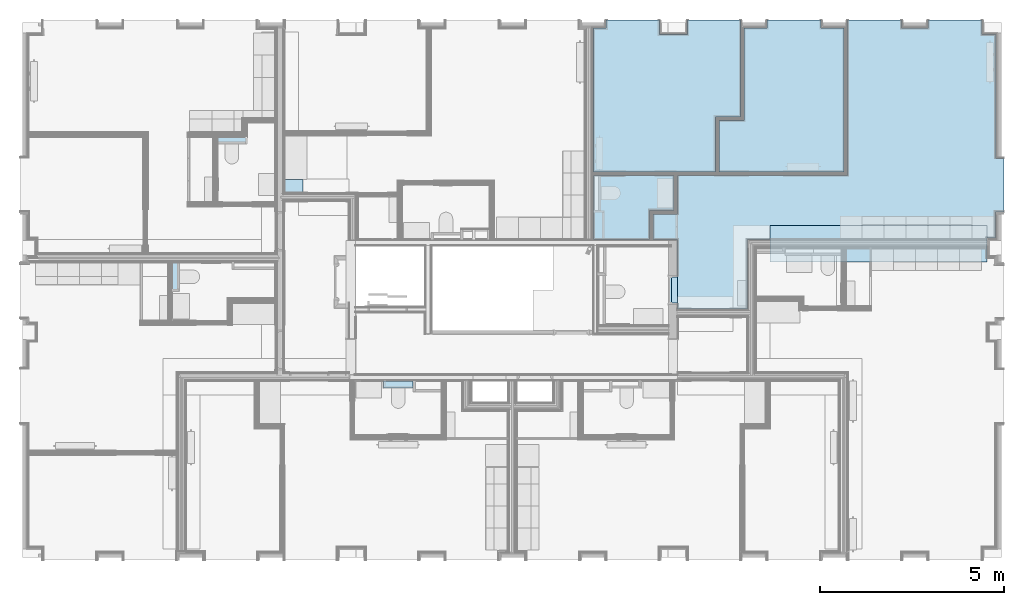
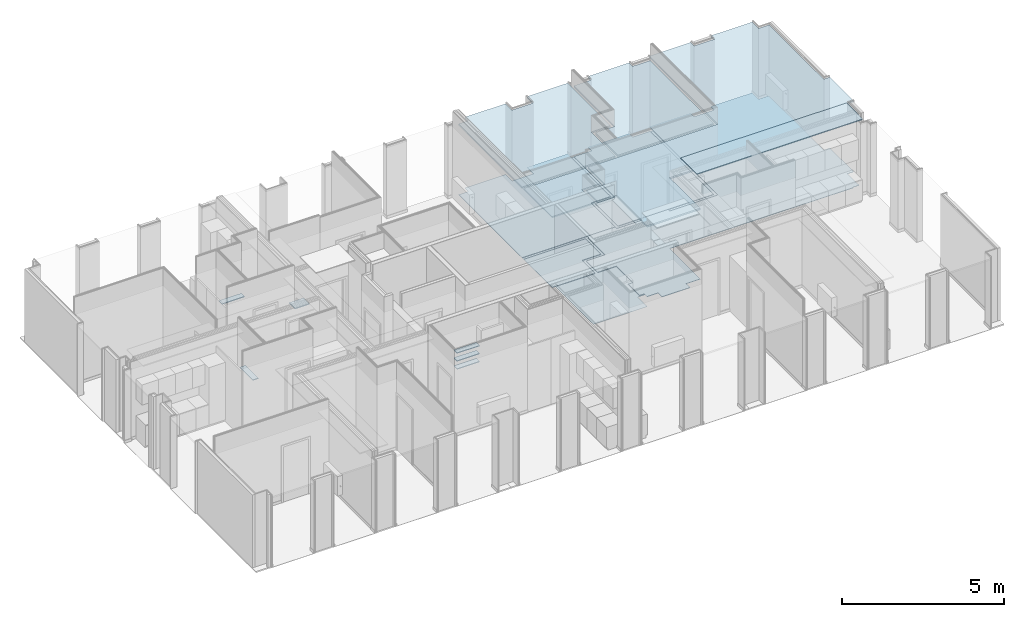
# One storey, part 48 of 65: 20 slabs.
"""IFC2X3 building model written with IfcOpenShell, lengths in metres."""

import ifcopenshell
import ifcopenshell.guid

model = None  # the IFC model being written
_history = None  # IfcOwnerHistory: only IFC2X3 demands one
_inside = {}  # id of a spatial element -> (the spatial element, [elements in it])
_under = {}  # id of a project, library or spatial element -> (it, [spatial elements below it])
_declared = {}  # id of a project -> (the project, [libraries it declares])
_typed = {}  # id of a type object -> (the type object, [elements of that type])
_made_of = {}  # id of a material, layer set ... -> (it, [elements and type objects made of it])


def new_model(schema):
    """Start an empty IFC model of exactly this schema.

    Asked for "IFC4X3", IfcOpenShell would pick the latest addendum, in which some entities
    have other attributes; the version numbers below select the first issue.
    IFC2X3 requires an IfcOwnerHistory on every rooted entity: one is made here for all.
    """
    global model, _history
    if schema == "IFC4X3":
        model = ifcopenshell.file(schema_version=(4, 3, 0, 0))
    else:
        model = ifcopenshell.file(schema=schema)
    _inside.clear()
    _under.clear()
    _declared.clear()
    _typed.clear()
    _made_of.clear()
    _history = None
    if model.schema == "IFC2X3":
        org = make("IfcOrganization", Name="unknown")
        user = make(
            "IfcPersonAndOrganization",
            ThePerson=make("IfcPerson", FamilyName="unknown"),
            TheOrganization=org,
        )
        app = make(
            "IfcApplication",
            ApplicationDeveloper=org,
            Version="unknown",
            ApplicationFullName="unknown",
            ApplicationIdentifier="unknown",
        )
        _history = make(
            "IfcOwnerHistory",
            OwningUser=user,
            OwningApplication=app,
            ChangeAction="ADDED",
            CreationDate=0,
        )
    return model


def make(cls, **values):
    """One entity of the class cls with the attributes given. An attribute that is None is left unset."""
    return model.create_entity(
        cls, **{name: value for name, value in values.items() if value is not None}
    )


def entity(cls, *values):
    """Any entity or typed value of the class cls, its attributes in the order of the schema. None: left unset."""
    e = model.create_entity(cls)
    for i, value in enumerate(values):
        if value is not None:
            e[i] = value
    return e


def rooted(cls, **values):
    """An entity with a GlobalId (a new one), such as an element, a storey or a relation."""
    return make(cls, GlobalId=ifcopenshell.guid.new(), OwnerHistory=_history, **values)


def si_unit(unit_type, name, prefix=None):
    """IfcSIUnit, for example si_unit("LENGTHUNIT", "METRE", prefix="MILLI")."""
    return make("IfcSIUnit", UnitType=unit_type, Prefix=prefix, Name=name)


def converted_unit(unit_type, name, factor, base, dimensions=None, offset=None):
    """IfcConversionBasedUnit, such as the inch: factor (a typed value) times the base unit."""
    return make(
        "IfcConversionBasedUnit"
        if offset is None
        else "IfcConversionBasedUnitWithOffset",
        ConversionOffset=offset,
        Dimensions=None
        if dimensions is None
        else entity("IfcDimensionalExponents", *dimensions),
        UnitType=unit_type,
        Name=name,
        ConversionFactor=make(
            "IfcMeasureWithUnit", ValueComponent=factor, UnitComponent=base
        ),
    )


def derived_unit(unit_type, elements):
    """IfcDerivedUnit: a product of units, each with its exponent."""
    return make(
        "IfcDerivedUnit",
        Elements=[
            make("IfcDerivedUnitElement", Unit=unit, Exponent=power)
            for unit, power in elements
        ],
        UnitType=unit_type,
    )


def money_unit(currency):
    """IfcMonetaryUnit."""
    return make("IfcMonetaryUnit", Currency=currency)


def assignment(units):
    """IfcUnitAssignment: the units of a project."""
    return None if units is None else make("IfcUnitAssignment", Units=units)


def point(xyz):
    """IfcCartesianPoint."""
    return None if xyz is None else make("IfcCartesianPoint", Coordinates=xyz)


def direction(xyz):
    """IfcDirection."""
    return None if xyz is None else make("IfcDirection", DirectionRatios=xyz)


def frame(location, z_axis=None, x_axis=None):
    """IfcAxis2Placement3D, a coordinate frame: its origin and axes. An axis left out is left unset."""
    return make(
        "IfcAxis2Placement3D",
        Location=point(location),
        Axis=direction(z_axis),
        RefDirection=direction(x_axis),
    )


def origin_with_axes():
    """The frame at (0, 0, 0) with the z axis (0, 0, 1) and the x axis (1, 0, 0) written out."""
    return frame((0.0, 0.0, 0.0), z_axis=(0.0, 0.0, 1.0), x_axis=(1.0, 0.0, 0.0))


def place(relative_to, where):
    """IfcLocalPlacement: puts the frame where relative to a parent placement (None: the world)."""
    return make(
        "IfcLocalPlacement", PlacementRelTo=relative_to, RelativePlacement=where
    )


def context(
    kind, dimensions, precision=None, world=None, true_north=None, identifier=None
):
    """IfcGeometricRepresentationContext, for example the 3D "Model" context."""
    return make(
        "IfcGeometricRepresentationContext",
        ContextIdentifier=identifier,
        ContextType=kind,
        CoordinateSpaceDimension=dimensions,
        Precision=precision,
        WorldCoordinateSystem=world,
        TrueNorth=true_north,
    )


def subcontext(parent, identifier, kind, view, scale=None):
    """IfcGeometricRepresentationSubContext, for example "Body" below "Model"."""
    return make(
        "IfcGeometricRepresentationSubContext",
        ContextIdentifier=identifier,
        ContextType=kind,
        ParentContext=parent,
        TargetScale=scale,
        TargetView=view,
    )


def project(units=None, contexts=None):
    """IfcProject with its units and contexts."""
    return rooted(
        "IfcProject",
        Name="project",
        RepresentationContexts=contexts,
        UnitsInContext=assignment(units),
    )


def spatial(cls, under=None, at=None, **own):
    """A site, building, storey or space (cls), placed at a placement, below another one or the project."""
    s = rooted(cls, ObjectPlacement=at, **own)
    if under is not None:
        _under.setdefault(under.id(), (under, []))[1].append(s)
    return s


def faces_of(points, faces, orient=None, outer=None):
    """IfcFace entities. A face is a list of loops; a loop is a list of indices into points, from 0.

    orient and outer hold one flag for each loop. By default every Orientation is true, the
    first loop of a face is its IfcFaceOuterBound and the others are IfcFaceBound.
    """
    made = []
    for i, loops in enumerate(faces):
        bounds = []
        for j, loop in enumerate(loops):
            is_outer = j == 0 if outer is None else outer[i][j]
            bounds.append(
                make(
                    "IfcFaceOuterBound" if is_outer else "IfcFaceBound",
                    Bound=make("IfcPolyLoop", Polygon=[points[k] for k in loop]),
                    Orientation=True if orient is None else orient[i][j],
                )
            )
        made.append(make("IfcFace", Bounds=bounds))
    return made


def faceted_brep(points, faces, orient=None, outer=None, voids=None):
    """IfcFacetedBrep: a solid bounded by flat faces; with voids (closed shells), ...WithVoids."""
    shared = [point(p) for p in points]
    hull = make("IfcClosedShell", CfsFaces=faces_of(shared, faces, orient, outer))
    if voids is None:
        return make("IfcFacetedBrep", Outer=hull)
    return make(
        "IfcFacetedBrepWithVoids",
        Outer=hull,
        Voids=[
            make(cls, CfsFaces=faces_of(shared, fs, o, b)) for cls, fs, o, b in voids
        ],
    )


def shape(context_of_items, identifier, shape_type, items):
    """IfcShapeRepresentation: the items that make up one representation, for example the "Body"."""
    return make(
        "IfcShapeRepresentation",
        ContextOfItems=context_of_items,
        RepresentationIdentifier=identifier,
        RepresentationType=shape_type,
        Items=items,
    )


def material(Name=None, Category=None):
    """IfcMaterial."""
    return make("IfcMaterial", Name=Name, Category=Category)


def made_of(thing, what):
    """Note that an element or type object is made of a material, layer set ...; save() writes the relation."""
    if what is not None:
        _made_of.setdefault(what.id(), (what, []))[1].append(thing)
    return thing


def type_object(cls, material=None, **own):
    """A type object (cls), such as IfcWallType, which elements share."""
    return made_of(rooted(cls, **own), material)


def element(
    cls,
    number,
    at=None,
    inside=None,
    cuts=None,
    type_object=None,
    material=None,
    context=None,
    identifier="Body",
    shape_type=None,
    held_by="IfcProductDefinitionShape",
    body=None,
    shapes=None,
    **own,
):
    """One element of the class cls, such as IfcWall. Its Tag is "e" and its number.

    at: its placement. inside: the storey or other place that contains it. cuts: it is an
    opening in that element (IfcRelVoidsElement). A single representation is given by context,
    identifier, shape_type and body (its items); several are given by shapes. held_by: the class
    of the entity that holds the representations. save() writes the other relations.
    """
    e = rooted(cls, Tag="e%d" % number, ObjectPlacement=at, **own)
    if body is not None:
        shapes = [shape(context, identifier, shape_type, body)]
    if shapes is not None:
        e.Representation = make(held_by, Representations=shapes)
    if inside is not None:
        _inside.setdefault(inside.id(), (inside, []))[1].append(e)
    if cuts is not None:
        rooted(
            "IfcRelVoidsElement", RelatingBuildingElement=cuts, RelatedOpeningElement=e
        )
    if type_object is not None:
        _typed.setdefault(type_object.id(), (type_object, []))[1].append(e)
    return made_of(e, material)


def aggregate(whole, parts):
    """IfcRelAggregates: a whole, such as a stair, and the parts it consists of."""
    return rooted("IfcRelAggregates", RelatingObject=whole, RelatedObjects=parts)


def save(model, path):
    """Write the relations noted so far, then the file.

    IfcRelAggregates (storeys below a building ...), IfcRelContainedInSpatialStructure (elements
    in a storey), IfcRelDefinesByType, IfcRelAssociatesMaterial and IfcRelDeclares: one each for
    every whole, place, type object, material and project.
    """
    for whole, parts in _under.values():
        aggregate(whole, parts)
    for where, things in _inside.values():
        rooted(
            "IfcRelContainedInSpatialStructure",
            RelatedElements=things,
            RelatingStructure=where,
        )
    for kind, things in _typed.values():
        rooted("IfcRelDefinesByType", RelatedObjects=things, RelatingType=kind)
    for what, things in _made_of.values():
        rooted("IfcRelAssociatesMaterial", RelatedObjects=things, RelatingMaterial=what)
    for by, libraries in _declared.values():
        rooted("IfcRelDeclares", RelatingContext=by, RelatedDefinitions=libraries)
    model.write(path)


model = new_model("IFC2X3")

# Units and contexts
model_context = context("Model", 3, precision=1e-05, world=origin_with_axes(), true_north=direction((0.0, 1.0)))
body_context = subcontext(model_context, "Body", "Model", "MODEL_VIEW", scale=1.0)
ifc_project = project(units=[si_unit("LENGTHUNIT", "METRE"), si_unit("AREAUNIT", "SQUARE_METRE"), si_unit("VOLUMEUNIT", "CUBIC_METRE"), si_unit("ABSORBEDDOSEUNIT", "GRAY"), si_unit("AMOUNTOFSUBSTANCEUNIT", "MOLE"), si_unit("DOSEEQUIVALENTUNIT", "SIEVERT"), si_unit("ELECTRICCAPACITANCEUNIT", "FARAD"), si_unit("ELECTRICCHARGEUNIT", "COULOMB"), si_unit("ELECTRICCONDUCTANCEUNIT", "SIEMENS"), si_unit("ELECTRICCURRENTUNIT", "AMPERE"), si_unit("ELECTRICRESISTANCEUNIT", "OHM"), si_unit("ELECTRICVOLTAGEUNIT", "VOLT"), si_unit("ENERGYUNIT", "JOULE"), si_unit("FORCEUNIT", "NEWTON"), si_unit("FREQUENCYUNIT", "HERTZ"), si_unit("ILLUMINANCEUNIT", "LUX"), si_unit("INDUCTANCEUNIT", "HENRY"), si_unit("LUMINOUSFLUXUNIT", "LUMEN"), si_unit("LUMINOUSINTENSITYUNIT", "CANDELA"), si_unit("MAGNETICFLUXDENSITYUNIT", "TESLA"), si_unit("MAGNETICFLUXUNIT", "WEBER"), si_unit("MASSUNIT", "GRAM"), converted_unit("PLANEANGLEUNIT", "degree", entity("IfcReal", 0.0174532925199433), si_unit("PLANEANGLEUNIT", "RADIAN"), dimensions=[0, 0, 0, 0, 0, 0, 0]), si_unit("POWERUNIT", "WATT"), si_unit("PRESSUREUNIT", "PASCAL"), si_unit("RADIOACTIVITYUNIT", "BECQUEREL"), si_unit("SOLIDANGLEUNIT", "STERADIAN"), si_unit("THERMODYNAMICTEMPERATUREUNIT", "KELVIN"), si_unit("TIMEUNIT", "SECOND"), derived_unit("ACCELERATIONUNIT", [(si_unit("LENGTHUNIT", "METRE"), 1), (si_unit("TIMEUNIT", "SECOND"), -2)]), derived_unit("ANGULARVELOCITYUNIT", [(converted_unit("PLANEANGLEUNIT", "degree", entity("IfcReal", 0.0174532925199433), si_unit("PLANEANGLEUNIT", "RADIAN"), dimensions=[0, 0, 0, 0, 0, 0, 0]), 1), (si_unit("TIMEUNIT", "SECOND"), -1)]), derived_unit("CURVATUREUNIT", [(converted_unit("PLANEANGLEUNIT", "degree", entity("IfcReal", 0.0174532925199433), si_unit("PLANEANGLEUNIT", "RADIAN"), dimensions=[0, 0, 0, 0, 0, 0, 0]), 1), (si_unit("LENGTHUNIT", "METRE"), -1)]), derived_unit("DYNAMICVISCOSITYUNIT", [(si_unit("PRESSUREUNIT", "PASCAL"), 1), (si_unit("TIMEUNIT", "SECOND"), 1)]), derived_unit("HEATFLUXDENSITYUNIT", [(si_unit("POWERUNIT", "WATT"), 1), (si_unit("LENGTHUNIT", "METRE"), -2)]), derived_unit("HEATINGVALUEUNIT", [(si_unit("ENERGYUNIT", "JOULE"), 1), (si_unit("MASSUNIT", "GRAM"), -1)]), derived_unit("INTEGERCOUNTRATEUNIT", [(si_unit("TIMEUNIT", "SECOND"), -1)]), derived_unit("IONCONCENTRATIONUNIT", [(si_unit("MASSUNIT", "GRAM"), 1), (si_unit("VOLUMEUNIT", "CUBIC_METRE"), -1)]), derived_unit("ISOTHERMALMOISTURECAPACITYUNIT", [(si_unit("VOLUMEUNIT", "CUBIC_METRE"), 1), (si_unit("MASSUNIT", "GRAM"), -1)]), derived_unit("KINEMATICVISCOSITYUNIT", [(si_unit("AREAUNIT", "SQUARE_METRE"), 1), (si_unit("TIMEUNIT", "SECOND"), -1)]), derived_unit("LINEARFORCEUNIT", [(si_unit("FORCEUNIT", "NEWTON"), 1), (si_unit("LENGTHUNIT", "METRE"), -1)]), derived_unit("LINEARMOMENTUNIT", [(si_unit("FORCEUNIT", "NEWTON"), 1), (si_unit("LENGTHUNIT", "METRE"), -1)]), derived_unit("LINEARSTIFFNESSUNIT", [(si_unit("FORCEUNIT", "NEWTON"), 1), (si_unit("LENGTHUNIT", "METRE"), -1)]), derived_unit("LINEARVELOCITYUNIT", [(si_unit("LENGTHUNIT", "METRE"), 1), (si_unit("TIMEUNIT", "SECOND"), -1)]), derived_unit("LUMINOUSINTENSITYDISTRIBUTIONUNIT", [(si_unit("LUMINOUSINTENSITYUNIT", "CANDELA"), 1), (si_unit("LUMINOUSFLUXUNIT", "LUMEN"), -1)]), derived_unit("MASSDENSITYUNIT", [(si_unit("MASSUNIT", "GRAM"), 1), (si_unit("VOLUMEUNIT", "CUBIC_METRE"), -1)]), derived_unit("MASSFLOWRATEUNIT", [(si_unit("MASSUNIT", "GRAM"), 1), (si_unit("TIMEUNIT", "SECOND"), -1)]), derived_unit("MASSPERLENGTHUNIT", [(si_unit("MASSUNIT", "GRAM"), 1), (si_unit("LENGTHUNIT", "METRE"), -1)]), derived_unit("MODULUSOFELASTICITYUNIT", [(si_unit("FORCEUNIT", "NEWTON"), 1), (si_unit("AREAUNIT", "SQUARE_METRE"), -1)]), derived_unit("MODULUSOFLINEARSUBGRADEREACTIONUNIT", [(si_unit("FORCEUNIT", "NEWTON"), 1), (si_unit("LENGTHUNIT", "METRE"), -2)]), derived_unit("MODULUSOFROTATIONALSUBGRADEREACTIONUNIT", [(si_unit("FORCEUNIT", "NEWTON"), 1), (si_unit("LENGTHUNIT", "METRE"), 1)]), derived_unit("MODULUSOFSUBGRADEREACTIONUNIT", [(si_unit("FORCEUNIT", "NEWTON"), 1), (si_unit("VOLUMEUNIT", "CUBIC_METRE"), -1)]), derived_unit("MOISTUREDIFFUSIVITYUNIT", [(si_unit("VOLUMEUNIT", "CUBIC_METRE"), 1), (si_unit("TIMEUNIT", "SECOND"), -1)]), derived_unit("MOLECULARWEIGHTUNIT", [(si_unit("MASSUNIT", "GRAM"), 1), (si_unit("AMOUNTOFSUBSTANCEUNIT", "MOLE"), -1)]), derived_unit("PLANARFORCEUNIT", [(si_unit("FORCEUNIT", "NEWTON"), 1), (si_unit("LENGTHUNIT", "METRE"), -2)]), derived_unit("ROTATIONALFREQUENCYUNIT", [(si_unit("TIMEUNIT", "SECOND"), -1)]), derived_unit("ROTATIONALMASSUNIT", [(si_unit("MASSUNIT", "GRAM"), 1), (si_unit("LENGTHUNIT", "METRE"), 2)]), derived_unit("ROTATIONALSTIFFNESSUNIT", [(si_unit("FORCEUNIT", "NEWTON"), 1), (si_unit("LENGTHUNIT", "METRE"), 1), (converted_unit("PLANEANGLEUNIT", "degree", entity("IfcReal", 0.0174532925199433), si_unit("PLANEANGLEUNIT", "RADIAN"), dimensions=[0, 0, 0, 0, 0, 0, 0]), -1)]), derived_unit("SECTIONAREAINTEGRALUNIT", [(si_unit("LENGTHUNIT", "METRE"), 5)]), derived_unit("SECTIONMODULUSUNIT", [(si_unit("LENGTHUNIT", "METRE"), 3)]), derived_unit("SHEARMODULUSUNIT", [(si_unit("FORCEUNIT", "NEWTON"), 1), (si_unit("AREAUNIT", "SQUARE_METRE"), -1)]), derived_unit("SOUNDPOWERUNIT", [(si_unit("ENERGYUNIT", "JOULE"), 1), (si_unit("TIMEUNIT", "SECOND"), -1)]), derived_unit("SPECIFICHEATCAPACITYUNIT", [(si_unit("FORCEUNIT", "NEWTON"), 1), (si_unit("MASSUNIT", "GRAM"), -1), (si_unit("THERMODYNAMICTEMPERATUREUNIT", "KELVIN"), -1)]), derived_unit("TEMPERATUREGRADIENTUNIT", [(si_unit("THERMODYNAMICTEMPERATUREUNIT", "KELVIN"), 1), (si_unit("LENGTHUNIT", "METRE"), -1)]), derived_unit("THERMALADMITTANCEUNIT", [(si_unit("POWERUNIT", "WATT"), 1), (si_unit("AREAUNIT", "SQUARE_METRE"), -1), (si_unit("THERMODYNAMICTEMPERATUREUNIT", "KELVIN"), -1)]), derived_unit("THERMALCONDUCTANCEUNIT", [(si_unit("POWERUNIT", "WATT"), 1), (si_unit("LENGTHUNIT", "METRE"), -1), (si_unit("THERMODYNAMICTEMPERATUREUNIT", "KELVIN"), -1)]), derived_unit("THERMALEXPANSIONCOEFFICIENTUNIT", [(si_unit("THERMODYNAMICTEMPERATUREUNIT", "KELVIN"), -1)]), derived_unit("THERMALRESISTANCEUNIT", [(si_unit("AREAUNIT", "SQUARE_METRE"), 1), (si_unit("POWERUNIT", "WATT"), -1)]), derived_unit("THERMALTRANSMITTANCEUNIT", [(si_unit("POWERUNIT", "WATT"), 1), (si_unit("AREAUNIT", "SQUARE_METRE"), -1), (si_unit("THERMODYNAMICTEMPERATUREUNIT", "KELVIN"), -1)]), derived_unit("TORQUEUNIT", [(si_unit("FORCEUNIT", "NEWTON"), 1), (si_unit("LENGTHUNIT", "METRE"), 1)]), derived_unit("VAPORPERMEABILITYUNIT", [(si_unit("MASSUNIT", "GRAM"), 1), (si_unit("TIMEUNIT", "SECOND"), -1)]), derived_unit("VOLUMETRICFLOWRATEUNIT", [(si_unit("VOLUMEUNIT", "CUBIC_METRE"), 1), (si_unit("TIMEUNIT", "SECOND"), -1)]), derived_unit("WARPINGCONSTANTUNIT", [(si_unit("LENGTHUNIT", "METRE"), 6)]), derived_unit("WARPINGMOMENTUNIT", [(si_unit("FORCEUNIT", "NEWTON"), 1), (si_unit("LENGTHUNIT", "METRE"), 2)]), money_unit("GBP")], contexts=[model_context])

# Site, building, storey
site_placement = place(None, origin_with_axes())
site = spatial("IfcSite", under=ifc_project, at=site_placement, Name="Site", CompositionType="ELEMENT")
building_placement = place(site_placement, origin_with_axes())
building = spatial("IfcBuilding", under=site, at=building_placement, Name="Building01", CompositionType="ELEMENT")
storey_placement = place(building_placement, frame((0.0, 0.0, 8.64), z_axis=(0.0, 0.0, 1.0), x_axis=(1.0, 0.0, 0.0)))
storey = spatial("IfcBuildingStorey", under=building, at=storey_placement, Name="2F", CompositionType="ELEMENT", Elevation=8.64)

# Slabs
ifc_material_1 = material(Name="A_BSUK_Ceramic_WallTiles")
slab_type_1 = type_object("IfcSlabType", Name="A-FloorsSlabs A_BSUK_Slabs", PredefinedType="FLOOR")
for number, where, z_axis, x_axis, name in (
    (1, (9.992536, 4.779998, 1.375), (0.0, 0.0, 1.0), (1.0, 0.0, 0.0), "A-FloorsSlabs A_BSUK_Slabs"),
    (2, (9.992536, 4.779998, 1.675), (0.0, 0.0, 1.0), (1.0, 0.0, 0.0), "A-FloorsSlabs A_BSUK_Slabs"),
    (3, (9.992536, 4.779998, 1.975), (0.0, 0.0, 1.0), (1.0, 0.0, 0.0), "A-FloorsSlabs A_BSUK_Slabs"),
):
    element("IfcSlab", number, at=place(storey_placement, frame(where, z_axis=z_axis, x_axis=x_axis)), inside=storey, type_object=slab_type_1, material=ifc_material_1, Name=name, ObjectType="A-FloorsSlabs A_BSUK_Slabs", context=body_context, shape_type="Brep", body=[
        faceted_brep([(0.0, 0.0, 0.0), (0.0, 0.0, 0.025), (0.0, 0.200002, 0.025), (0.0, 0.200002, 0.0), (0.8, 3e-06, 0.0), (0.8, 3e-06, 0.025), (0.799999, 0.200002, 0.0), (0.799999, 0.200002, 0.025)], [[[0, 1, 2, 3]], [[4, 5, 1, 0]], [[6, 7, 5, 4]], [[3, 2, 7, 6]], [[1, 5, 7, 2]], [[3, 6, 4, 0]]]),
    ])
slab_1_placement = place(storey_placement, frame((4.44073, 6.914372, 1.375), z_axis=(0.0, 0.0, 1.0), x_axis=(0.0, 1.0, 0.0)))
element("IfcSlab", 4, at=slab_1_placement, inside=storey, type_object=slab_type_1, material=ifc_material_1, Name="A-FloorsSlabs A_BSUK_Slabs", ObjectType="A-FloorsSlabs A_BSUK_Slabs", context=body_context, shape_type="Brep", body=[
    faceted_brep([(0.496298, 1e-06, 0.0), (0.496298, 1e-06, 0.025), (0.496298, 0.2, 0.025), (0.496298, 0.2, 0.0), (1.296298, 4e-06, 0.0), (1.296298, 4e-06, 0.025), (1.296298, 0.2, 0.0), (1.296298, 0.2, 0.025)], [[[0, 1, 2, 3]], [[4, 5, 1, 0]], [[6, 7, 5, 4]], [[3, 2, 7, 6]], [[1, 5, 7, 2]], [[3, 6, 4, 0]]]),
])
ifc_material_2 = material(Name="A_BSUK_ExpandedPolystyreneBoards")
placement = place(storey_placement, frame((0.0, 0.0, -8.64), z_axis=(0.0, 0.0, 1.0), x_axis=(1.0, 0.0, 0.0)))
element("IfcSlab", 5, at=placement, inside=storey, type_object=slab_type_1, material=ifc_material_2, Name="A-FloorsSlabs A_BSUK_Slabs", ObjectType="CompoundSlabLeaf", context=body_context, shape_type="Brep", body=[
    faceted_brep([(15.83, 8.82, 8.64), (15.83, 8.82, 8.643), (15.708132, 8.82, 8.643), (15.708132, 8.82, 8.64), (15.83, 8.65, 8.64), (15.83, 8.65, 8.643), (15.83, 6.475, 8.64), (15.83, 6.475, 8.643), (17.75, 6.475, 8.64), (17.75, 6.475, 8.643), (17.75, 7.058, 8.64), (17.75, 7.058, 8.643), (18.0, 7.058, 8.64), (18.0, 7.058, 8.643), (18.0, 6.93, 8.64), (18.0, 6.93, 8.643), (18.392, 6.93, 8.64), (18.392, 6.93, 8.643), (18.392, 6.69, 8.64), (18.392, 6.69, 8.643), (19.392, 6.69, 8.64), (19.392, 6.69, 8.643), (19.392, 6.93, 8.64), (19.392, 6.93, 8.643), (19.897661, 6.93, 8.64), (19.897661, 6.93, 8.643), (19.897661, 8.82, 8.64), (19.897661, 8.82, 8.643), (26.432, 8.82, 8.64), (26.432, 8.82, 8.643), (26.432, 8.848, 8.64), (26.432, 8.848, 8.643), (26.662, 8.848, 8.64), (26.662, 8.848, 8.643), (26.662, 9.56218, 8.64), (26.662, 9.56218, 8.643), (26.88, 9.56218, 8.64), (26.88, 9.56218, 8.643), (26.88, 11.03218, 8.64), (26.88, 11.03218, 8.643), (26.662, 11.03218, 8.64), (26.662, 11.03218, 8.643), (26.662, 14.402, 8.64), (26.662, 14.402, 8.643), (26.285, 14.402, 8.64), (26.285, 14.402, 8.643), (26.285, 14.8, 8.64), (26.285, 14.8, 8.643), (24.815, 14.8, 8.64), (24.815, 14.8, 8.643), (24.815, 14.582, 8.64), (24.815, 14.582, 8.643), (24.095, 14.582, 8.64), (24.095, 14.582, 8.643), (24.095, 14.8, 8.64), (24.095, 14.8, 8.643), (22.625, 14.8, 8.64), (22.625, 14.8, 8.643), (22.625, 14.582, 8.64), (22.625, 14.582, 8.643), (21.905, 14.582, 8.64), (21.905, 14.582, 8.643), (21.905, 14.8, 8.64), (21.905, 14.8, 8.643), (20.435, 14.8, 8.64), (20.435, 14.8, 8.643), (20.435, 14.582, 8.64), (20.435, 14.582, 8.643), (19.715, 14.582, 8.64), (19.715, 14.582, 8.643), (19.715, 14.8, 8.64), (19.715, 14.8, 8.643), (18.268, 14.8, 8.64), (18.268, 14.8, 8.643), (18.268, 14.402, 8.64), (18.268, 14.402, 8.643), (17.502, 14.402, 8.64), (17.502, 14.402, 8.643), (17.502, 14.8, 8.64), (17.502, 14.8, 8.643), (16.055, 14.8, 8.64), (16.055, 14.8, 8.643), (16.055, 14.582, 8.64), (16.055, 14.582, 8.643), (15.708132, 14.582, 8.64), (15.708132, 14.582, 8.643)], [[[0, 1, 2, 3]], [[4, 5, 1, 0]], [[6, 7, 5, 4]], [[8, 9, 7, 6]], [[10, 11, 9, 8]], [[12, 13, 11, 10]], [[14, 15, 13, 12]], [[16, 17, 15, 14]], [[18, 19, 17, 16]], [[20, 21, 19, 18]], [[22, 23, 21, 20]], [[24, 25, 23, 22]], [[26, 27, 25, 24]], [[28, 29, 27, 26]], [[30, 31, 29, 28]], [[32, 33, 31, 30]], [[34, 35, 33, 32]], [[36, 37, 35, 34]], [[38, 39, 37, 36]], [[40, 41, 39, 38]], [[42, 43, 41, 40]], [[44, 45, 43, 42]], [[46, 47, 45, 44]], [[48, 49, 47, 46]], [[50, 51, 49, 48]], [[52, 53, 51, 50]], [[54, 55, 53, 52]], [[56, 57, 55, 54]], [[58, 59, 57, 56]], [[60, 61, 59, 58]], [[62, 63, 61, 60]], [[64, 65, 63, 62]], [[66, 67, 65, 64]], [[68, 69, 67, 66]], [[70, 71, 69, 68]], [[72, 73, 71, 70]], [[74, 75, 73, 72]], [[76, 77, 75, 74]], [[78, 79, 77, 76]], [[80, 81, 79, 78]], [[82, 83, 81, 80]], [[84, 85, 83, 82]], [[3, 2, 85, 84]], [[1, 5, 7, 9, 11, 13, 15, 17, 19, 21, 23, 25, 27, 29, 31, 33, 35, 37, 39, 41, 43, 45, 47, 49, 51, 53, 55, 57, 59, 61, 63, 65, 67, 69, 71, 73, 75, 77, 79, 81, 83, 85, 2]], [[3, 84, 82, 80, 78, 76, 74, 72, 70, 68, 66, 64, 62, 60, 58, 56, 54, 52, 50, 48, 46, 44, 42, 40, 38, 36, 34, 32, 30, 28, 26, 24, 22, 20, 18, 16, 14, 12, 10, 8, 6, 4, 0]]]),
])
ifc_material_3 = material(Name="A_BSUK_Parquet_Floor")
element("IfcSlab", 6, at=placement, inside=storey, type_object=slab_type_1, material=ifc_material_3, Name="A-FloorsSlabs A_BSUK_Slabs", ObjectType="CompoundSlabLeaf", context=body_context, shape_type="Brep", body=[
    faceted_brep([(18.392, 6.69, 8.643), (18.392, 6.69, 8.655), (18.392, 6.93, 8.655), (18.392, 6.93, 8.643), (19.392, 6.69, 8.643), (19.392, 6.69, 8.655), (19.392, 6.93, 8.643), (19.392, 6.93, 8.655), (19.897661, 6.93, 8.643), (19.897661, 6.93, 8.655), (19.897661, 8.82, 8.643), (19.897661, 8.82, 8.655), (26.432, 8.82, 8.643), (26.432, 8.82, 8.655), (26.432, 8.848, 8.643), (26.432, 8.848, 8.655), (26.662, 8.848, 8.643), (26.662, 8.848, 8.655), (26.662, 9.56218, 8.643), (26.662, 9.56218, 8.655), (26.88, 9.56218, 8.643), (26.88, 9.56218, 8.655), (26.88, 11.03218, 8.643), (26.88, 11.03218, 8.655), (26.662, 11.03218, 8.643), (26.662, 11.03218, 8.655), (26.662, 14.402, 8.643), (26.662, 14.402, 8.655), (26.285, 14.402, 8.643), (26.285, 14.402, 8.655), (26.285, 14.8, 8.643), (26.285, 14.8, 8.655), (24.815, 14.8, 8.643), (24.815, 14.8, 8.655), (24.815, 14.582, 8.643), (24.815, 14.582, 8.655), (24.095, 14.582, 8.643), (24.095, 14.582, 8.655), (24.095, 14.8, 8.643), (24.095, 14.8, 8.655), (22.625, 14.8, 8.643), (22.625, 14.8, 8.655), (22.625, 10.57, 8.643), (22.625, 10.57, 8.655), (20.902284, 10.57, 8.643), (20.902284, 10.57, 8.655), (20.902284, 10.665, 8.643), (20.902284, 10.665, 8.655), (19.918284, 10.665, 8.643), (19.918284, 10.665, 8.655), (19.918284, 10.57, 8.643), (19.918284, 10.57, 8.655), (19.017398, 10.57, 8.643), (19.017398, 10.57, 8.655), (19.017398, 10.665, 8.643), (19.017398, 10.665, 8.655), (18.033398, 10.665, 8.643), (18.033398, 10.665, 8.655), (18.033398, 10.57, 8.643), (18.033398, 10.57, 8.655), (18.0, 10.57, 8.643), (18.0, 10.57, 8.655), (18.0, 9.967396, 8.643), (18.0, 9.967396, 8.655), (18.0, 9.525, 8.643), (18.0, 9.525, 8.655), (17.333132, 9.525, 8.643), (17.333132, 9.525, 8.655), (17.333132, 8.82, 8.643), (17.333132, 8.82, 8.655), (17.905, 8.82, 8.643), (17.905, 8.82, 8.655), (18.0, 8.82, 8.643), (18.0, 8.82, 8.655), (18.0, 7.8, 8.643), (18.0, 7.8, 8.655), (17.83, 7.8, 8.643), (17.83, 7.8, 8.655), (17.83, 7.1, 8.643), (17.83, 7.1, 8.655), (18.0, 7.1, 8.643), (18.0, 7.1, 8.655), (18.0, 6.93, 8.643), (18.0, 6.93, 8.655)], [[[0, 1, 2, 3]], [[4, 5, 1, 0]], [[6, 7, 5, 4]], [[8, 9, 7, 6]], [[10, 11, 9, 8]], [[12, 13, 11, 10]], [[14, 15, 13, 12]], [[16, 17, 15, 14]], [[18, 19, 17, 16]], [[20, 21, 19, 18]], [[22, 23, 21, 20]], [[24, 25, 23, 22]], [[26, 27, 25, 24]], [[28, 29, 27, 26]], [[30, 31, 29, 28]], [[32, 33, 31, 30]], [[34, 35, 33, 32]], [[36, 37, 35, 34]], [[38, 39, 37, 36]], [[40, 41, 39, 38]], [[42, 43, 41, 40]], [[44, 45, 43, 42]], [[46, 47, 45, 44]], [[48, 49, 47, 46]], [[50, 51, 49, 48]], [[52, 53, 51, 50]], [[54, 55, 53, 52]], [[56, 57, 55, 54]], [[58, 59, 57, 56]], [[60, 61, 59, 58]], [[62, 63, 61, 60]], [[64, 65, 63, 62]], [[66, 67, 65, 64]], [[68, 69, 67, 66]], [[70, 71, 69, 68]], [[72, 73, 71, 70]], [[74, 75, 73, 72]], [[76, 77, 75, 74]], [[78, 79, 77, 76]], [[80, 81, 79, 78]], [[82, 83, 81, 80]], [[3, 2, 83, 82]], [[1, 5, 7, 9, 11, 13, 15, 17, 19, 21, 23, 25, 27, 29, 31, 33, 35, 37, 39, 41, 43, 45, 47, 49, 51, 53, 55, 57, 59, 61, 63, 65, 67, 69, 71, 73, 75, 77, 79, 81, 83, 2]], [[3, 82, 80, 78, 76, 74, 72, 70, 68, 66, 64, 62, 60, 58, 56, 54, 52, 50, 48, 46, 44, 42, 40, 38, 36, 34, 32, 30, 28, 26, 24, 22, 20, 18, 16, 14, 12, 10, 8, 6, 4, 0]]]),
])
ifc_material_4 = material(Name="A_BSUK_Carpet-Pile")
element("IfcSlab", 7, at=placement, inside=storey, type_object=slab_type_1, material=ifc_material_4, Name="A-FloorsSlabs A_BSUK_Slabs", ObjectType="CompoundSlabLeaf", context=body_context, shape_type="Brep", body=[
    faceted_brep([(15.708132, 10.665, 8.643), (15.708132, 10.665, 8.655), (15.708132, 14.582, 8.655), (15.708132, 14.582, 8.643), (19.025284, 10.665, 8.643), (19.025284, 10.665, 8.655), (19.025284, 12.159378, 8.643), (19.025284, 12.159378, 8.655), (19.715, 12.159378, 8.643), (19.715, 12.159378, 8.655), (19.715, 14.8, 8.643), (19.715, 14.8, 8.655), (18.268, 14.8, 8.643), (18.268, 14.8, 8.655), (18.268, 14.402, 8.643), (18.268, 14.402, 8.655), (17.502, 14.402, 8.643), (17.502, 14.402, 8.655), (17.502, 14.8, 8.643), (17.502, 14.8, 8.655), (16.055, 14.8, 8.643), (16.055, 14.8, 8.655), (16.055, 14.582, 8.643), (16.055, 14.582, 8.655)], [[[0, 1, 2, 3]], [[4, 5, 1, 0]], [[6, 7, 5, 4]], [[8, 9, 7, 6]], [[10, 11, 9, 8]], [[12, 13, 11, 10]], [[14, 15, 13, 12]], [[16, 17, 15, 14]], [[18, 19, 17, 16]], [[20, 21, 19, 18]], [[22, 23, 21, 20]], [[3, 2, 23, 22]], [[1, 5, 7, 9, 11, 13, 15, 17, 19, 21, 23, 2]], [[3, 22, 20, 18, 16, 14, 12, 10, 8, 6, 4, 0]]]),
])
element("IfcSlab", 8, at=placement, inside=storey, type_object=slab_type_1, material=ifc_material_4, Name="A-FloorsSlabs A_BSUK_Slabs", ObjectType="CompoundSlabLeaf", context=body_context, shape_type="Brep", body=[
    faceted_brep([(19.81, 12.064378, 8.643), (19.81, 12.064378, 8.655), (19.81, 14.582, 8.655), (19.81, 14.582, 8.643), (19.120284, 12.064378, 8.643), (19.120284, 12.064378, 8.655), (19.120284, 10.665, 8.643), (19.120284, 10.665, 8.655), (22.53, 10.665, 8.643), (22.53, 10.665, 8.655), (22.53, 14.582, 8.643), (22.53, 14.582, 8.655), (21.905, 14.582, 8.643), (21.905, 14.582, 8.655), (21.905, 14.8, 8.643), (21.905, 14.8, 8.655), (20.435, 14.8, 8.643), (20.435, 14.8, 8.655), (20.435, 14.582, 8.643), (20.435, 14.582, 8.655)], [[[0, 1, 2, 3]], [[4, 5, 1, 0]], [[6, 7, 5, 4]], [[8, 9, 7, 6]], [[10, 11, 9, 8]], [[12, 13, 11, 10]], [[14, 15, 13, 12]], [[16, 17, 15, 14]], [[18, 19, 17, 16]], [[3, 2, 19, 18]], [[1, 5, 7, 9, 11, 13, 15, 17, 19, 2]], [[3, 18, 16, 14, 12, 10, 8, 6, 4, 0]]]),
])
ifc_material_5 = material(Name="A_BSUK_CeilingSoffitFinishes_Suspended")
element("IfcSlab", 9, at=placement, inside=storey, type_object=slab_type_1, material=ifc_material_5, Name="A-FloorsSlabs A_BSUK_Slabs", ObjectType="CompoundSlabLeaf", context=body_context, shape_type="Brep", body=[
    faceted_brep([(18.395, 6.93, 11.255), (18.395, 6.93, 11.27), (18.0, 6.93, 11.27), (18.0, 6.93, 11.255), (19.395, 6.93, 11.255), (19.395, 6.93, 11.27), (19.897661, 6.93, 11.255), (19.897661, 6.93, 11.27), (19.897661, 8.82, 11.255), (19.897661, 8.82, 11.27), (26.417, 8.82, 11.255), (26.417, 8.82, 11.27), (26.417, 8.863, 11.255), (26.417, 8.863, 11.27), (26.647, 8.863, 11.255), (26.647, 8.863, 11.27), (26.647, 9.57718, 11.255), (26.647, 9.57718, 11.27), (26.88, 9.57718, 11.255), (26.88, 9.57718, 11.27), (26.88, 11.03218, 11.255), (26.88, 11.03218, 11.27), (26.662, 11.03218, 11.255), (26.662, 11.03218, 11.27), (26.662, 14.402, 11.255), (26.662, 14.402, 11.27), (26.285, 14.402, 11.255), (26.285, 14.402, 11.27), (26.285, 14.8, 11.255), (26.285, 14.8, 11.27), (24.815, 14.8, 11.255), (24.815, 14.8, 11.27), (24.815, 14.582, 11.255), (24.815, 14.582, 11.27), (24.095, 14.582, 11.255), (24.095, 14.582, 11.27), (24.095, 14.8, 11.255), (24.095, 14.8, 11.27), (22.625, 14.8, 11.255), (22.625, 14.8, 11.27), (22.625, 10.57, 11.255), (22.625, 10.57, 11.27), (19.891284, 10.57, 11.255), (19.891284, 10.57, 11.27), (19.044398, 10.57, 11.255), (19.044398, 10.57, 11.27), (18.0, 10.57, 11.255), (18.0, 10.57, 11.27), (18.0, 9.525, 11.255), (18.0, 9.525, 11.27), (17.333132, 9.525, 11.255), (17.333132, 9.525, 11.27), (17.333132, 8.82, 11.255), (17.333132, 8.82, 11.27), (18.0, 8.82, 11.255), (18.0, 8.82, 11.27), (18.0, 7.82088, 11.255), (18.0, 7.82088, 11.27), (18.0, 7.02888, 11.255), (18.0, 7.02888, 11.27)], [[[0, 1, 2, 3]], [[4, 5, 1, 0]], [[6, 7, 5, 4]], [[8, 9, 7, 6]], [[10, 11, 9, 8]], [[12, 13, 11, 10]], [[14, 15, 13, 12]], [[16, 17, 15, 14]], [[18, 19, 17, 16]], [[20, 21, 19, 18]], [[22, 23, 21, 20]], [[24, 25, 23, 22]], [[26, 27, 25, 24]], [[28, 29, 27, 26]], [[30, 31, 29, 28]], [[32, 33, 31, 30]], [[34, 35, 33, 32]], [[36, 37, 35, 34]], [[38, 39, 37, 36]], [[40, 41, 39, 38]], [[42, 43, 41, 40]], [[44, 45, 43, 42]], [[46, 47, 45, 44]], [[48, 49, 47, 46]], [[50, 51, 49, 48]], [[52, 53, 51, 50]], [[54, 55, 53, 52]], [[56, 57, 55, 54]], [[58, 59, 57, 56]], [[3, 2, 59, 58]], [[1, 5, 7, 9, 11, 13, 15, 17, 19, 21, 23, 25, 27, 29, 31, 33, 35, 37, 39, 41, 43, 45, 47, 49, 51, 53, 55, 57, 59, 2]], [[3, 58, 56, 54, 52, 50, 48, 46, 44, 42, 40, 38, 36, 34, 32, 30, 28, 26, 24, 22, 20, 18, 16, 14, 12, 10, 8, 6, 4, 0]]]),
])
element("IfcSlab", 10, at=placement, inside=storey, type_object=slab_type_1, material=ifc_material_5, Name="A-FloorsSlabs A_BSUK_Slabs", ObjectType="CompoundSlabLeaf", context=body_context, shape_type="Brep", body=[
    faceted_brep([(15.708132, 10.665, 11.255), (15.708132, 10.665, 11.27), (15.708132, 14.567, 11.27), (15.708132, 14.567, 11.255), (19.025284, 10.665, 11.255), (19.025284, 10.665, 11.27), (19.025284, 12.159378, 11.255), (19.025284, 12.159378, 11.27), (19.715, 12.159378, 11.255), (19.715, 12.159378, 11.27), (19.715, 14.8, 11.255), (19.715, 14.8, 11.27), (18.268, 14.8, 11.255), (18.268, 14.8, 11.27), (18.268, 14.402, 11.255), (18.268, 14.402, 11.27), (17.502, 14.402, 11.255), (17.502, 14.402, 11.27), (17.502, 14.8, 11.255), (17.502, 14.8, 11.27), (16.070124, 14.8, 11.255), (16.070124, 14.8, 11.27), (16.070124, 14.567, 11.255), (16.070124, 14.567, 11.27)], [[[0, 1, 2, 3]], [[4, 5, 1, 0]], [[6, 7, 5, 4]], [[8, 9, 7, 6]], [[10, 11, 9, 8]], [[12, 13, 11, 10]], [[14, 15, 13, 12]], [[16, 17, 15, 14]], [[18, 19, 17, 16]], [[20, 21, 19, 18]], [[22, 23, 21, 20]], [[3, 2, 23, 22]], [[1, 5, 7, 9, 11, 13, 15, 17, 19, 21, 23, 2]], [[3, 22, 20, 18, 16, 14, 12, 10, 8, 6, 4, 0]]]),
])
element("IfcSlab", 11, at=placement, inside=storey, type_object=slab_type_1, material=ifc_material_5, Name="A-FloorsSlabs A_BSUK_Slabs", ObjectType="CompoundSlabLeaf", context=body_context, shape_type="Brep", body=[
    faceted_brep([(19.81, 12.064378, 11.255), (19.81, 12.064378, 11.27), (19.81, 14.582, 11.27), (19.81, 14.582, 11.255), (19.120284, 12.064378, 11.255), (19.120284, 12.064378, 11.27), (19.120284, 10.665, 11.255), (19.120284, 10.665, 11.27), (22.53, 10.665, 11.255), (22.53, 10.665, 11.27), (22.53, 14.582, 11.255), (22.53, 14.582, 11.27), (21.905, 14.582, 11.255), (21.905, 14.582, 11.27), (21.905, 14.8, 11.255), (21.905, 14.8, 11.27), (20.435, 14.8, 11.255), (20.435, 14.8, 11.27), (20.435, 14.582, 11.255), (20.435, 14.582, 11.27)], [[[0, 1, 2, 3]], [[4, 5, 1, 0]], [[6, 7, 5, 4]], [[8, 9, 7, 6]], [[10, 11, 9, 8]], [[12, 13, 11, 10]], [[14, 15, 13, 12]], [[16, 17, 15, 14]], [[18, 19, 17, 16]], [[3, 2, 19, 18]], [[1, 5, 7, 9, 11, 13, 15, 17, 19, 2]], [[3, 18, 16, 14, 12, 10, 8, 6, 4, 0]]]),
])
ifc_material_6 = material(Name="A_BSUK_Ceramic_FloorTiles")
element("IfcSlab", 12, at=placement, inside=storey, type_object=slab_type_1, material=ifc_material_6, Name="A-FloorsSlabs A_BSUK_Slabs", ObjectType="CompoundSlabLeaf", context=body_context, shape_type="Brep", body=[
    faceted_brep([(15.708132, 8.82, 8.643), (15.708132, 8.82, 8.655), (15.708132, 10.57, 8.655), (15.708132, 10.57, 8.643), (17.238132, 8.82, 8.643), (17.238132, 8.82, 8.655), (17.238132, 9.62, 8.643), (17.238132, 9.62, 8.655), (17.905, 9.62, 8.643), (17.905, 9.62, 8.655), (17.905, 10.57, 8.643), (17.905, 10.57, 8.655)], [[[0, 1, 2, 3]], [[4, 5, 1, 0]], [[6, 7, 5, 4]], [[8, 9, 7, 6]], [[10, 11, 9, 8]], [[3, 2, 11, 10]], [[1, 5, 7, 9, 11, 2]], [[3, 10, 8, 6, 4, 0]]]),
])
element("IfcSlab", 13, at=placement, inside=storey, type_object=slab_type_1, material=ifc_material_1, Name="A-FloorsSlabs A_BSUK_Slabs", ObjectType="CompoundSlabLeaf", context=body_context, shape_type="Brep", body=[
    faceted_brep([(5.464669, 11.43067, 10.015), (5.464669, 11.43067, 10.04), (5.464669, 11.63067, 10.04), (5.464669, 11.63067, 10.015), (6.264669, 11.430672, 10.015), (6.264669, 11.430672, 10.04), (6.264669, 11.63067, 10.015), (6.264669, 11.63067, 10.04)], [[[0, 1, 2, 3]], [[4, 5, 1, 0]], [[6, 7, 5, 4]], [[3, 2, 7, 6]], [[1, 5, 7, 2]], [[3, 6, 4, 0]]]),
])
element("IfcSlab", 14, at=placement, inside=storey, type_object=slab_type_1, material=ifc_material_1, Name="A-FloorsSlabs A_BSUK_Slabs", ObjectType="CompoundSlabLeaf", context=body_context, shape_type="Brep", body=[
    faceted_brep([(7.804669, 10.453124, 10.015), (7.804669, 10.453124, 10.04), (7.804669, 10.087704, 10.04), (7.804669, 10.087704, 10.015), (7.289669, 10.453124, 10.015), (7.289669, 10.453124, 10.04), (7.289669, 10.087704, 10.015), (7.289669, 10.087704, 10.04)], [[[0, 1, 2, 3]], [[4, 5, 1, 0]], [[6, 7, 5, 4]], [[3, 2, 7, 6]], [[1, 5, 7, 2]], [[3, 6, 4, 0]]]),
])
element("IfcSlab", 15, at=placement, inside=storey, type_object=slab_type_1, material=ifc_material_5, Name="A-FloorsSlabs A_BSUK_Slabs", ObjectType="CompoundSlabLeaf", context=body_context, shape_type="Brep", body=[
    faceted_brep([(20.510161, 8.2075, 11.605), (20.510161, 8.2075, 11.62), (20.510161, 9.2075, 11.62), (20.510161, 9.2075, 11.605), (26.417, 8.2075, 11.605), (26.417, 8.2075, 11.62), (26.417, 9.2075, 11.605), (26.417, 9.2075, 11.62)], [[[0, 1, 2, 3]], [[4, 5, 1, 0]], [[6, 7, 5, 4]], [[3, 2, 7, 6]], [[1, 5, 7, 2]], [[3, 6, 4, 0]]]),
])
element("IfcSlab", 16, at=placement, inside=storey, type_object=slab_type_1, material=ifc_material_5, Name="A-FloorsSlabs A_BSUK_Slabs", ObjectType="CompoundSlabLeaf", context=body_context, shape_type="Brep", body=[
    faceted_brep([(20.510161, 8.2075, 11.59), (20.510161, 8.2075, 11.605), (20.510161, 9.2075, 11.605), (20.510161, 9.2075, 11.59), (26.417, 8.2075, 11.59), (26.417, 8.2075, 11.605), (26.417, 9.2075, 11.59), (26.417, 9.2075, 11.605)], [[[0, 1, 2, 3]], [[4, 5, 1, 0]], [[6, 7, 5, 4]], [[3, 2, 7, 6]], [[1, 5, 7, 2]], [[3, 6, 4, 0]]]),
])
slab_type_2 = type_object("IfcSlabType", Name="A-FloorsSlabs A_BSUK_ExpandedPolystyreneBoards", PredefinedType="FLOOR")
element("IfcSlab", 17, at=placement, inside=storey, type_object=slab_type_2, material=ifc_material_2, Name="A-FloorsSlabs A_BSUK_ExpandedPolystyreneBoards", ObjectType="CompoundSlabLeaf", context=body_context, shape_type="Brep", body=[
    faceted_brep([(18.395, 6.93, 11.27), (18.395, 6.93, 11.32), (18.0, 6.93, 11.32), (18.0, 6.93, 11.27), (19.395, 6.93, 11.27), (19.395, 6.93, 11.32), (19.897661, 6.93, 11.27), (19.897661, 6.93, 11.32), (19.897661, 8.82, 11.27), (19.897661, 8.82, 11.32), (26.432, 8.82, 11.27), (26.432, 8.82, 11.32), (26.432, 8.848, 11.27), (26.432, 8.848, 11.32), (26.662, 8.848, 11.27), (26.662, 8.848, 11.32), (26.662, 9.56218, 11.27), (26.662, 9.56218, 11.32), (26.88, 9.56218, 11.27), (26.88, 9.56218, 11.32), (26.88, 11.03218, 11.27), (26.88, 11.03218, 11.32), (26.662, 11.03218, 11.27), (26.662, 11.03218, 11.32), (26.662, 14.402, 11.27), (26.662, 14.402, 11.32), (26.285, 14.402, 11.27), (26.285, 14.402, 11.32), (26.285, 14.8, 11.27), (26.285, 14.8, 11.32), (24.815, 14.8, 11.27), (24.815, 14.8, 11.32), (24.815, 14.582, 11.27), (24.815, 14.582, 11.32), (24.095, 14.582, 11.27), (24.095, 14.582, 11.32), (24.095, 14.8, 11.27), (24.095, 14.8, 11.32), (22.625, 14.8, 11.27), (22.625, 14.8, 11.32), (22.625, 10.57, 11.27), (22.625, 10.57, 11.32), (19.891284, 10.57, 11.27), (19.891284, 10.57, 11.32), (19.044398, 10.57, 11.27), (19.044398, 10.57, 11.32), (18.0, 10.57, 11.27), (18.0, 10.57, 11.32), (18.0, 9.525, 11.27), (18.0, 9.525, 11.32), (17.333132, 9.525, 11.27), (17.333132, 9.525, 11.32), (17.333132, 8.82, 11.27), (17.333132, 8.82, 11.32), (18.0, 8.82, 11.27), (18.0, 8.82, 11.32), (18.0, 7.82088, 11.27), (18.0, 7.82088, 11.32), (18.0, 7.02888, 11.27), (18.0, 7.02888, 11.32)], [[[0, 1, 2, 3]], [[4, 5, 1, 0]], [[6, 7, 5, 4]], [[8, 9, 7, 6]], [[10, 11, 9, 8]], [[12, 13, 11, 10]], [[14, 15, 13, 12]], [[16, 17, 15, 14]], [[18, 19, 17, 16]], [[20, 21, 19, 18]], [[22, 23, 21, 20]], [[24, 25, 23, 22]], [[26, 27, 25, 24]], [[28, 29, 27, 26]], [[30, 31, 29, 28]], [[32, 33, 31, 30]], [[34, 35, 33, 32]], [[36, 37, 35, 34]], [[38, 39, 37, 36]], [[40, 41, 39, 38]], [[42, 43, 41, 40]], [[44, 45, 43, 42]], [[46, 47, 45, 44]], [[48, 49, 47, 46]], [[50, 51, 49, 48]], [[52, 53, 51, 50]], [[54, 55, 53, 52]], [[56, 57, 55, 54]], [[58, 59, 57, 56]], [[3, 2, 59, 58]], [[1, 5, 7, 9, 11, 13, 15, 17, 19, 21, 23, 25, 27, 29, 31, 33, 35, 37, 39, 41, 43, 45, 47, 49, 51, 53, 55, 57, 59, 2]], [[3, 58, 56, 54, 52, 50, 48, 46, 44, 42, 40, 38, 36, 34, 32, 30, 28, 26, 24, 22, 20, 18, 16, 14, 12, 10, 8, 6, 4, 0]]]),
])
element("IfcSlab", 18, at=placement, inside=storey, type_object=slab_type_2, material=ifc_material_2, Name="A-FloorsSlabs A_BSUK_ExpandedPolystyreneBoards", ObjectType="CompoundSlabLeaf", context=body_context, shape_type="Brep", body=[
    faceted_brep([(15.708132, 10.665, 11.27), (15.708132, 10.665, 11.32), (15.708132, 14.582, 11.32), (15.708132, 14.582, 11.27), (19.025284, 10.665, 11.27), (19.025284, 10.665, 11.32), (19.025284, 12.159378, 11.27), (19.025284, 12.159378, 11.32), (19.715, 12.159378, 11.27), (19.715, 12.159378, 11.32), (19.715, 14.8, 11.27), (19.715, 14.8, 11.32), (18.268, 14.8, 11.27), (18.268, 14.8, 11.32), (18.268, 14.402, 11.27), (18.268, 14.402, 11.32), (17.502, 14.402, 11.27), (17.502, 14.402, 11.32), (17.502, 14.8, 11.27), (17.502, 14.8, 11.32), (16.055, 14.8, 11.27), (16.055, 14.8, 11.32), (16.055, 14.582, 11.27), (16.055, 14.582, 11.32)], [[[0, 1, 2, 3]], [[4, 5, 1, 0]], [[6, 7, 5, 4]], [[8, 9, 7, 6]], [[10, 11, 9, 8]], [[12, 13, 11, 10]], [[14, 15, 13, 12]], [[16, 17, 15, 14]], [[18, 19, 17, 16]], [[20, 21, 19, 18]], [[22, 23, 21, 20]], [[3, 2, 23, 22]], [[1, 5, 7, 9, 11, 13, 15, 17, 19, 21, 23, 2]], [[3, 22, 20, 18, 16, 14, 12, 10, 8, 6, 4, 0]]]),
])
element("IfcSlab", 19, at=placement, inside=storey, type_object=slab_type_2, material=ifc_material_2, Name="A-FloorsSlabs A_BSUK_ExpandedPolystyreneBoards", ObjectType="CompoundSlabLeaf", context=body_context, shape_type="Brep", body=[
    faceted_brep([(19.81, 12.064378, 11.27), (19.81, 12.064378, 11.32), (19.81, 14.582, 11.32), (19.81, 14.582, 11.27), (19.120284, 12.064378, 11.27), (19.120284, 12.064378, 11.32), (19.120284, 10.665, 11.27), (19.120284, 10.665, 11.32), (22.53, 10.665, 11.27), (22.53, 10.665, 11.32), (22.53, 14.582, 11.27), (22.53, 14.582, 11.32), (21.905, 14.582, 11.27), (21.905, 14.582, 11.32), (21.905, 14.8, 11.27), (21.905, 14.8, 11.32), (20.435, 14.8, 11.27), (20.435, 14.8, 11.32), (20.435, 14.582, 11.27), (20.435, 14.582, 11.32)], [[[0, 1, 2, 3]], [[4, 5, 1, 0]], [[6, 7, 5, 4]], [[8, 9, 7, 6]], [[10, 11, 9, 8]], [[12, 13, 11, 10]], [[14, 15, 13, 12]], [[16, 17, 15, 14]], [[18, 19, 17, 16]], [[3, 2, 19, 18]], [[1, 5, 7, 9, 11, 13, 15, 17, 19, 2]], [[3, 18, 16, 14, 12, 10, 8, 6, 4, 0]]]),
])
element("IfcSlab", 20, at=placement, inside=storey, type_object=slab_type_2, material=ifc_material_2, Name="A-FloorsSlabs A_BSUK_ExpandedPolystyreneBoards", ObjectType="CompoundSlabLeaf", context=body_context, shape_type="Brep", body=[
    faceted_brep([(15.708132, 10.57, 11.27), (15.708132, 10.57, 11.32), (17.905, 10.57, 11.32), (17.905, 10.57, 11.27), (15.708132, 8.82, 11.27), (15.708132, 8.82, 11.32), (17.238132, 8.82, 11.27), (17.238132, 8.82, 11.32), (17.238132, 9.62, 11.27), (17.238132, 9.62, 11.32), (17.905, 9.62, 11.27), (17.905, 9.62, 11.32)], [[[0, 1, 2, 3]], [[4, 5, 1, 0]], [[6, 7, 5, 4]], [[8, 9, 7, 6]], [[10, 11, 9, 8]], [[3, 2, 11, 10]], [[1, 5, 7, 9, 11, 2]], [[3, 10, 8, 6, 4, 0]]]),
])

save(model, "model.ifc")
